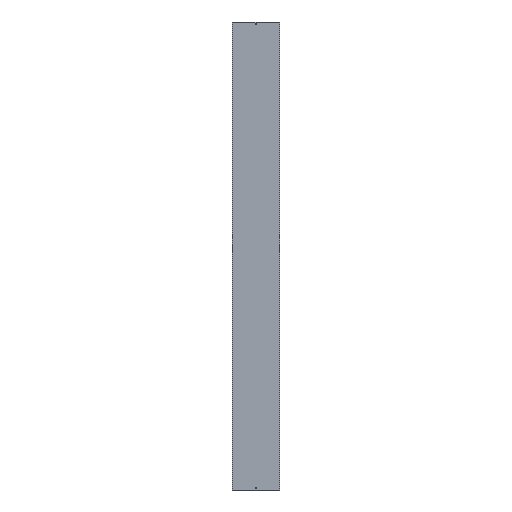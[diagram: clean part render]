
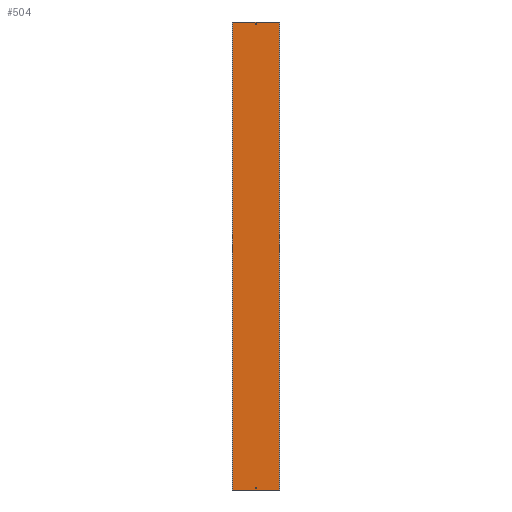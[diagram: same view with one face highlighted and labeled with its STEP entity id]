
A CAD part, front view. The second image highlights one B-rep face of the part: STEP entity #504.
In plain terms, the highlighted planar face has unit normal (0, -1, 0).
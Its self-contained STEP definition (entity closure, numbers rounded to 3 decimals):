
#6 = VECTOR ( 'NONE', #579, 1000. ) ;
#9 = DIRECTION ( 'NONE',  ( 1., 0., 0. ) ) ;
#12 = EDGE_CURVE ( 'NONE', #49, #96, #463, .T. ) ;
#13 = CARTESIAN_POINT ( 'NONE',  ( 3., -1., 1488.5 ) ) ;
#16 = VECTOR ( 'NONE', #367, 1000. ) ;
#22 = EDGE_CURVE ( 'NONE', #584, #49, #384, .T. ) ;
#25 = LINE ( 'NONE', #40, #145 ) ;
#33 = DIRECTION ( 'NONE',  ( -1., 0., 0. ) ) ;
#40 = CARTESIAN_POINT ( 'NONE',  ( -151., -1., 1500. ) ) ;
#49 = VERTEX_POINT ( 'NONE', #346 ) ;
#58 = EDGE_CURVE ( 'NONE', #168, #176, #25, .T. ) ;
#59 = CARTESIAN_POINT ( 'NONE',  ( -151., -1., 1481.5 ) ) ;
#62 = EDGE_CURVE ( 'NONE', #375, #539, #356, .T. ) ;
#65 = CARTESIAN_POINT ( 'NONE',  ( -3., -1., 1500. ) ) ;
#66 = VECTOR ( 'NONE', #9, 1000. ) ;
#68 = LINE ( 'NONE', #110, #370 ) ;
#76 = CARTESIAN_POINT ( 'NONE',  ( 3., -1., 1500. ) ) ;
#85 = ORIENTED_EDGE ( 'NONE', *, *, #12, .T. ) ;
#96 = VERTEX_POINT ( 'NONE', #341 ) ;
#101 = CARTESIAN_POINT ( 'NONE',  ( -151., -1., -1488.5 ) ) ;
#105 = VERTEX_POINT ( 'NONE', #490 ) ;
#107 = CARTESIAN_POINT ( 'NONE',  ( -3., -1., 1500. ) ) ;
#110 = CARTESIAN_POINT ( 'NONE',  ( -150., -1., 1500. ) ) ;
#127 = VECTOR ( 'NONE', #415, 1000. ) ;
#135 = VECTOR ( 'NONE', #549, 1000. ) ;
#140 = CARTESIAN_POINT ( 'NONE',  ( -151., -1., -1500. ) ) ;
#145 = VECTOR ( 'NONE', #33, 1000. ) ;
#153 = FACE_BOUND ( 'NONE', #407, .T. ) ;
#155 = CARTESIAN_POINT ( 'NONE',  ( -3., -1., 1481.5 ) ) ;
#168 = VERTEX_POINT ( 'NONE', #447 ) ;
#171 = CARTESIAN_POINT ( 'NONE',  ( 3., -1., -1488.5 ) ) ;
#176 = VERTEX_POINT ( 'NONE', #215 ) ;
#184 = CARTESIAN_POINT ( 'NONE',  ( 3., -1., -1481.5 ) ) ;
#190 = LINE ( 'NONE', #374, #16 ) ;
#213 = EDGE_CURVE ( 'NONE', #290, #584, #559, .T. ) ;
#215 = CARTESIAN_POINT ( 'NONE',  ( -150., -1., 1500. ) ) ;
#220 = EDGE_LOOP ( 'NONE', ( #419, #312, #387, #327 ) ) ;
#223 = VERTEX_POINT ( 'NONE', #155 ) ;
#224 = ORIENTED_EDGE ( 'NONE', *, *, #213, .T. ) ;
#227 = EDGE_LOOP ( 'NONE', ( #342, #315, #505, #281 ) ) ;
#228 = DIRECTION ( 'NONE',  ( 1., 0., 0. ) ) ;
#231 = CARTESIAN_POINT ( 'NONE',  ( 3., -1., 1481.5 ) ) ;
#233 = LINE ( 'NONE', #280, #135 ) ;
#237 = VECTOR ( 'NONE', #228, 1000. ) ;
#246 = DIRECTION ( 'NONE',  ( 0., 0., 1. ) ) ;
#249 = DIRECTION ( 'NONE',  ( 0., 0., -1. ) ) ;
#254 = LINE ( 'NONE', #107, #494 ) ;
#257 = FACE_BOUND ( 'NONE', #220, .T. ) ;
#280 = CARTESIAN_POINT ( 'NONE',  ( 150., -1., 1500. ) ) ;
#281 = ORIENTED_EDGE ( 'NONE', *, *, #563, .T. ) ;
#282 = LINE ( 'NONE', #503, #66 ) ;
#289 = EDGE_CURVE ( 'NONE', #168, #480, #233, .T. ) ;
#290 = VERTEX_POINT ( 'NONE', #184 ) ;
#294 = EDGE_CURVE ( 'NONE', #539, #441, #190, .T. ) ;
#312 = ORIENTED_EDGE ( 'NONE', *, *, #294, .F. ) ;
#315 = ORIENTED_EDGE ( 'NONE', *, *, #289, .F. ) ;
#317 = DIRECTION ( 'NONE',  ( -1., 0., 0. ) ) ;
#327 = ORIENTED_EDGE ( 'NONE', *, *, #352, .F. ) ;
#341 = CARTESIAN_POINT ( 'NONE',  ( -3., -1., -1481.5 ) ) ;
#342 = ORIENTED_EDGE ( 'NONE', *, *, #416, .F. ) ;
#346 = CARTESIAN_POINT ( 'NONE',  ( -3., -1., -1488.5 ) ) ;
#347 = ORIENTED_EDGE ( 'NONE', *, *, #405, .T. ) ;
#349 = DIRECTION ( 'NONE',  ( 0., 0., -1. ) ) ;
#352 = EDGE_CURVE ( 'NONE', #223, #375, #414, .T. ) ;
#356 = LINE ( 'NONE', #536, #6 ) ;
#364 = LINE ( 'NONE', #140, #567 ) ;
#367 = DIRECTION ( 'NONE',  ( -1., 0., 0. ) ) ;
#370 = VECTOR ( 'NONE', #472, 1000. ) ;
#374 = CARTESIAN_POINT ( 'NONE',  ( -151., -1., 1488.5 ) ) ;
#375 = VERTEX_POINT ( 'NONE', #231 ) ;
#378 = VECTOR ( 'NONE', #246, 1000. ) ;
#384 = LINE ( 'NONE', #101, #127 ) ;
#385 = CARTESIAN_POINT ( 'NONE',  ( 150., -1., -1500. ) ) ;
#387 = ORIENTED_EDGE ( 'NONE', *, *, #62, .F. ) ;
#405 = EDGE_CURVE ( 'NONE', #96, #290, #282, .T. ) ;
#407 = EDGE_LOOP ( 'NONE', ( #501, #85, #347, #224 ) ) ;
#414 = LINE ( 'NONE', #59, #237 ) ;
#415 = DIRECTION ( 'NONE',  ( -1., 0., 0. ) ) ;
#416 = EDGE_CURVE ( 'NONE', #480, #105, #364, .T. ) ;
#419 = ORIENTED_EDGE ( 'NONE', *, *, #540, .F. ) ;
#429 = VECTOR ( 'NONE', #249, 1000. ) ;
#434 = DIRECTION ( 'NONE',  ( 0., -1., 0. ) ) ;
#438 = CARTESIAN_POINT ( 'NONE',  ( -3., -1., 1488.5 ) ) ;
#441 = VERTEX_POINT ( 'NONE', #438 ) ;
#447 = CARTESIAN_POINT ( 'NONE',  ( 150., -1., 1500. ) ) ;
#457 = AXIS2_PLACEMENT_3D ( 'NONE', #564, #434, #349 ) ;
#463 = LINE ( 'NONE', #65, #378 ) ;
#472 = DIRECTION ( 'NONE',  ( 0., 0., -1. ) ) ;
#478 = PLANE ( 'NONE',  #457 ) ;
#480 = VERTEX_POINT ( 'NONE', #385 ) ;
#490 = CARTESIAN_POINT ( 'NONE',  ( -150., -1., -1500. ) ) ;
#494 = VECTOR ( 'NONE', #517, 1000. ) ;
#501 = ORIENTED_EDGE ( 'NONE', *, *, #22, .T. ) ;
#503 = CARTESIAN_POINT ( 'NONE',  ( -151., -1., -1481.5 ) ) ;
#504 = ADVANCED_FACE ( 'NONE', ( #257, #557, #153 ), #478, .T. ) ;
#505 = ORIENTED_EDGE ( 'NONE', *, *, #58, .T. ) ;
#517 = DIRECTION ( 'NONE',  ( 0., 0., -1. ) ) ;
#536 = CARTESIAN_POINT ( 'NONE',  ( 3., -1., 1500. ) ) ;
#539 = VERTEX_POINT ( 'NONE', #13 ) ;
#540 = EDGE_CURVE ( 'NONE', #441, #223, #254, .T. ) ;
#549 = DIRECTION ( 'NONE',  ( 0., 0., -1. ) ) ;
#557 = FACE_OUTER_BOUND ( 'NONE', #227, .T. ) ;
#559 = LINE ( 'NONE', #76, #429 ) ;
#563 = EDGE_CURVE ( 'NONE', #176, #105, #68, .T. ) ;
#564 = CARTESIAN_POINT ( 'NONE',  ( -151., -1., 1500. ) ) ;
#567 = VECTOR ( 'NONE', #317, 1000. ) ;
#579 = DIRECTION ( 'NONE',  ( 0., 0., 1. ) ) ;
#584 = VERTEX_POINT ( 'NONE', #171 ) ;
